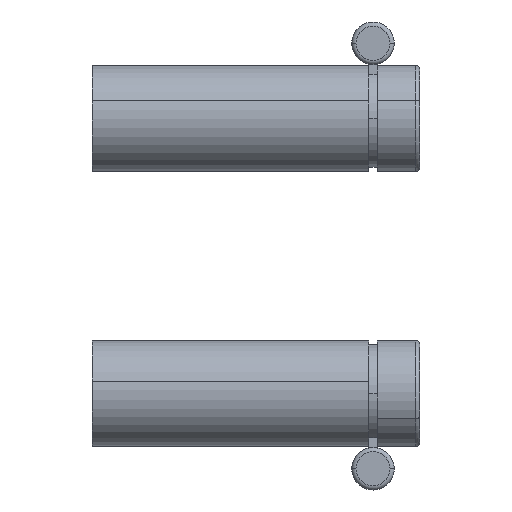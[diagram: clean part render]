
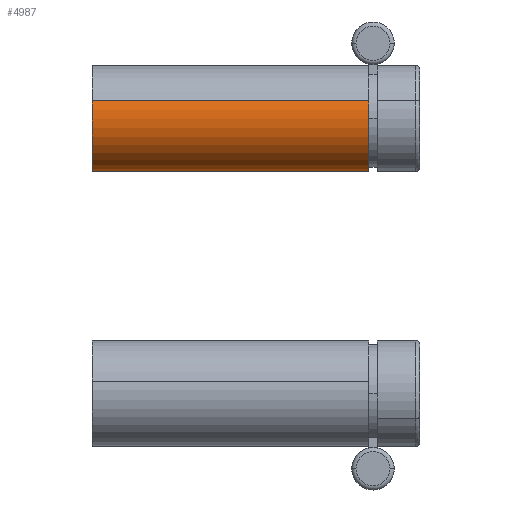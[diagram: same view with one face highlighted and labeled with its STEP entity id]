
A CAD part, front view. The second image highlights one B-rep face of the part: STEP entity #4987.
In plain terms, the highlighted cylindrical face has radius 12.5 mm (diameter 25 mm), a partial arc.
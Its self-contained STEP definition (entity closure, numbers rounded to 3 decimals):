
#313 = CIRCLE ( 'NONE', #4025, 12.5 ) ;
#346 = ORIENTED_EDGE ( 'NONE', *, *, #4466, .F. ) ;
#354 = CARTESIAN_POINT ( 'NONE',  ( 0., 63., -12.5 ) ) ;
#462 = DIRECTION ( 'NONE',  ( 0., -1., 0. ) ) ;
#584 = CARTESIAN_POINT ( 'NONE',  ( 0., -2., 12.5 ) ) ;
#820 = VERTEX_POINT ( 'NONE', #1005 ) ;
#889 = LINE ( 'NONE', #3655, #2258 ) ;
#1005 = CARTESIAN_POINT ( 'NONE',  ( 0., -2., -12.5 ) ) ;
#1036 = CARTESIAN_POINT ( 'NONE',  ( 0., 63., 0. ) ) ;
#1108 = DIRECTION ( 'NONE',  ( 0., 0., 1. ) ) ;
#1205 = CYLINDRICAL_SURFACE ( 'NONE', #5425, 12.5 ) ;
#1715 = ORIENTED_EDGE ( 'NONE', *, *, #6626, .F. ) ;
#2059 = VECTOR ( 'NONE', #462, 1000. ) ;
#2188 = FACE_OUTER_BOUND ( 'NONE', #5658, .T. ) ;
#2258 = VECTOR ( 'NONE', #5665, 1000. ) ;
#2577 = VERTEX_POINT ( 'NONE', #7057 ) ;
#2581 = ORIENTED_EDGE ( 'NONE', *, *, #5774, .F. ) ;
#3276 = DIRECTION ( 'NONE',  ( 0., -1., 0. ) ) ;
#3655 = CARTESIAN_POINT ( 'NONE',  ( 0., 63., 12.5 ) ) ;
#4025 = AXIS2_PLACEMENT_3D ( 'NONE', #1036, #4946, #1108 ) ;
#4337 = VERTEX_POINT ( 'NONE', #584 ) ;
#4466 = EDGE_CURVE ( 'NONE', #2577, #4337, #889, .T. ) ;
#4946 = DIRECTION ( 'NONE',  ( 0., 1., 0. ) ) ;
#4987 = ADVANCED_FACE ( 'NONE', ( #2188 ), #1205, .T. ) ;
#5070 = CIRCLE ( 'NONE', #6010, 12.5 ) ;
#5425 = AXIS2_PLACEMENT_3D ( 'NONE', #6214, #6801, #6729 ) ;
#5523 = DIRECTION ( 'NONE',  ( 0., 0., -1. ) ) ;
#5658 = EDGE_LOOP ( 'NONE', ( #346, #1715, #6590, #2581 ) ) ;
#5665 = DIRECTION ( 'NONE',  ( 0., -1., 0. ) ) ;
#5774 = EDGE_CURVE ( 'NONE', #4337, #820, #5070, .T. ) ;
#5951 = CARTESIAN_POINT ( 'NONE',  ( 0., 63., -12.5 ) ) ;
#5996 = VERTEX_POINT ( 'NONE', #354 ) ;
#6010 = AXIS2_PLACEMENT_3D ( 'NONE', #6622, #3276, #5523 ) ;
#6025 = LINE ( 'NONE', #5951, #2059 ) ;
#6092 = EDGE_CURVE ( 'NONE', #5996, #820, #6025, .T. ) ;
#6214 = CARTESIAN_POINT ( 'NONE',  ( 0., 63., 0. ) ) ;
#6590 = ORIENTED_EDGE ( 'NONE', *, *, #6092, .T. ) ;
#6622 = CARTESIAN_POINT ( 'NONE',  ( 0., -2., 0. ) ) ;
#6626 = EDGE_CURVE ( 'NONE', #5996, #2577, #313, .T. ) ;
#6729 = DIRECTION ( 'NONE',  ( 0., 0., -1. ) ) ;
#6801 = DIRECTION ( 'NONE',  ( 0., -1., 0. ) ) ;
#7057 = CARTESIAN_POINT ( 'NONE',  ( 0., 63., 12.5 ) ) ;
